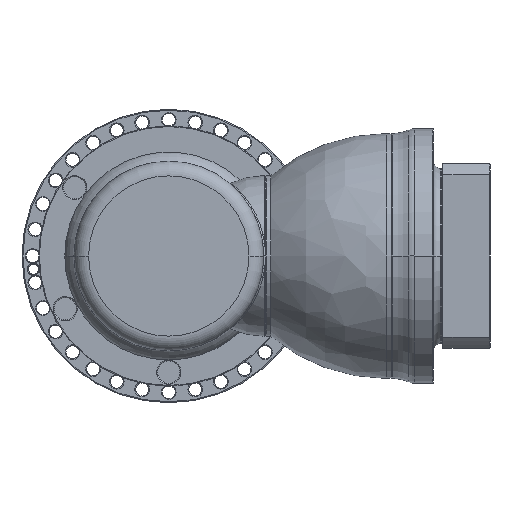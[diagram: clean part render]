
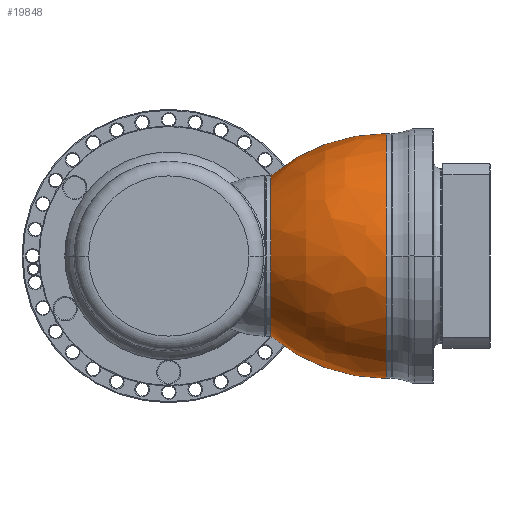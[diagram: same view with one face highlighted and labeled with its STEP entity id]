
A CAD part, left-side view. The second image highlights one B-rep face of the part: STEP entity #19848.
In plain terms, the highlighted free-form (B-spline) face has degree [3, 3] with [7, 4] control points.
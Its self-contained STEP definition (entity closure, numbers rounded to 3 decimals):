
#19554=CARTESIAN_POINT('',(-5.,0.,0.));
#19555=DIRECTION('',(1.,0.,0.));
#19556=DIRECTION('',(0.,-1.,0.));
#19557=AXIS2_PLACEMENT_3D('',#19554,#19555,#19556);
#19578=CARTESIAN_POINT('',(-5.,-58.52,0.));
#19579=DIRECTION('',(0.,0.,-1.));
#19580=DIRECTION('',(-0.644,0.765,0.));
#19581=AXIS2_PLACEMENT_3D('',#19578,#19579,#19580);
#19583=CARTESIAN_POINT('',(-5.,58.52,0.));
#19584=DIRECTION('',(0.,0.,1.));
#19585=DIRECTION('',(-0.644,-0.765,0.));
#19586=AXIS2_PLACEMENT_3D('',#19583,#19584,#19585);
#19598=CARTESIAN_POINT('',(-123.861,0.,0.));
#19599=DIRECTION('',(-1.,0.,0.));
#19600=DIRECTION('',(0.,1.,0.));
#19601=AXIS2_PLACEMENT_3D('',#19598,#19599,#19600);
#19649=CARTESIAN_POINT('',(-5.,126.,0.));
#19650=CARTESIAN_POINT('',(-5.,-126.,0.));
#19651=VERTEX_POINT('',#19649);
#19652=VERTEX_POINT('',#19650);
#19653=CARTESIAN_POINT('',(-123.861,82.618,0.));
#19654=CARTESIAN_POINT('',(-123.861,-82.618,
0.));
#19655=VERTEX_POINT('',#19653);
#19656=VERTEX_POINT('',#19654);
#19813=CARTESIAN_POINT('',(-2.417,125.733,
7.91));
#19814=CARTESIAN_POINT('',(-48.202,126.373,
7.951));
#19815=CARTESIAN_POINT('',(-91.217,110.704,
6.965));
#19816=CARTESIAN_POINT('',(-125.825,80.78,
5.082));
#19817=CARTESIAN_POINT('',(-2.417,130.601,
-69.466));
#19818=CARTESIAN_POINT('',(-48.202,131.266,
-69.819));
#19819=CARTESIAN_POINT('',(-91.217,114.991,
-61.162));
#19820=CARTESIAN_POINT('',(-125.825,83.908,
-44.63));
#19821=CARTESIAN_POINT('',(-2.417,77.529,
-125.982));
#19822=CARTESIAN_POINT('',(-48.202,77.924,
-126.623));
#19823=CARTESIAN_POINT('',(-91.217,68.262,
-110.923));
#19824=CARTESIAN_POINT('',(-125.825,49.81,
-80.94));
#19825=CARTESIAN_POINT('',(-2.417,0.,
-125.982));
#19826=CARTESIAN_POINT('',(-48.202,0.,-126.623));
#19827=CARTESIAN_POINT('',(-91.217,0.,-110.923));
#19828=CARTESIAN_POINT('',(-125.825,0.,-80.94));
#19829=CARTESIAN_POINT('',(-2.417,-77.529,
-125.982));
#19830=CARTESIAN_POINT('',(-48.202,-77.924,
-126.623));
#19831=CARTESIAN_POINT('',(-91.217,-68.262,
-110.923));
#19832=CARTESIAN_POINT('',(-125.825,-49.81,
-80.94));
#19833=CARTESIAN_POINT('',(-2.417,-130.601,
-69.466));
#19834=CARTESIAN_POINT('',(-48.202,-131.266,
-69.819));
#19835=CARTESIAN_POINT('',(-91.217,-114.991,
-61.162));
#19836=CARTESIAN_POINT('',(-125.825,-83.908,
-44.63));
#19837=CARTESIAN_POINT('',(-2.417,-125.733,
7.91));
#19838=CARTESIAN_POINT('',(-48.202,-126.373,
7.951));
#19839=CARTESIAN_POINT('',(-91.217,-110.704,
6.965));
#19840=CARTESIAN_POINT('',(-125.825,-80.78,
5.082));
#19841=(BOUNDED_SURFACE()B_SPLINE_SURFACE(3,3,((#19813,#19814,#19815,#19816),(
#19817,#19818,#19819,#19820),(#19821,#19822,#19823,#19824),(#19825,#19826,
#19827,#19828),(#19829,#19830,#19831,#19832),(#19833,#19834,#19835,#19836),(
#19837,#19838,#19839,#19840)),.UNSPECIFIED.,.F.,.F.,.F.)B_SPLINE_SURFACE_WITH_KNOTS((4,3,4),(4,4),(0.,1.,2.),(0.,1.),.UNSPECIFIED.)GEOMETRIC_REPRESENTATION_ITEM()RATIONAL_B_SPLINE_SURFACE(((1.227,1.174,
1.174,1.227),(0.969,0.927,
0.927,0.969),(0.969,0.927,
0.927,0.969),(1.227,1.174,
1.174,1.227),(0.969,0.927,
0.927,0.969),(0.969,0.927,
0.927,0.969),(1.227,1.174,
1.174,1.227)))REPRESENTATION_ITEM('')SURFACE());
#19842=ORIENTED_EDGE('',*,*,#19804,.T.);
#19843=ORIENTED_EDGE('',*,*,#19779,.T.);
#19844=ORIENTED_EDGE('',*,*,#19725,.T.);
#19845=ORIENTED_EDGE('',*,*,#19776,.F.);
#19846=EDGE_LOOP('',(#19842,#19843,#19844,#19845));
#19847=FACE_OUTER_BOUND('',#19846,.F.);
#19848=ADVANCED_FACE('',(#19847),#19841,.T.);
#19558=CIRCLE('',#19557,126.);
#19582=CIRCLE('',#19581,184.52);
#19587=CIRCLE('',#19586,184.52);
#19602=CIRCLE('',#19601,82.618);
#19725=EDGE_CURVE('',#19652,#19651,#19558,.T.);
#19776=EDGE_CURVE('',#19655,#19651,#19582,.T.);
#19779=EDGE_CURVE('',#19656,#19652,#19587,.T.);
#19804=EDGE_CURVE('',#19655,#19656,#19602,.T.);
